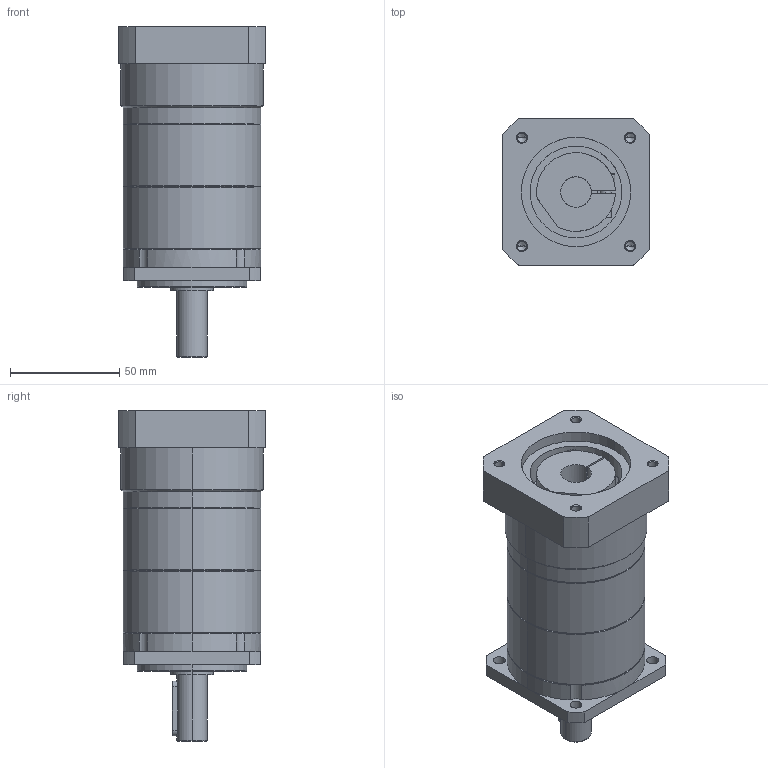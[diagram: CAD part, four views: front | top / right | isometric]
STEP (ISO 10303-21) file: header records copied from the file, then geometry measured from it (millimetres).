
FILE_DESCRIPTION(/* description */ (''),/* implementation_level */ '2;1');
FILE_NAME(/* name */ 'GPBS065-双节 外形图-∅14x36.5-∅50x6-∅70xM5-□67.5_step.stp',/* time_stamp */ '2025-03-20T13:22:57+08:00',/* author */ (''),/* organization */ (''),/* preprocessor_version */ 'ST-DEVELOPER v18.102',/* originating_system */ 'SIEMENS PLM Software NX 2027',/* authorisation */ '');
FILE_SCHEMA (('AUTOMOTIVE_DESIGN { 1 0 10303 214 3 1 1 1 }'));
Length unit declared in the file: millimetre
Products named in the file (1): GPBS065-双节 外形图-∅14x34-∅5
0x6-∅70xM5-□65_step_objects
Bounding box: 67.5 x 67.5 x 151 mm (x, y, z)
Volume: 380851.6 mm3; surface area: 45228.6 mm2
Topology: 1 solids, 1 shells, 176 faces, 408 edges, 242 vertices
Faces by surface type: cylinder 71, plane 51, cone 46, torus 8
Entity records: 5061 total; most frequent: DIRECTION 937, CARTESIAN_POINT 930, ORIENTED_EDGE 796, EDGE_CURVE 398, AXIS2_PLACEMENT_3D 377, VERTEX_POINT 242, EDGE_LOOP 206, CIRCLE 200
